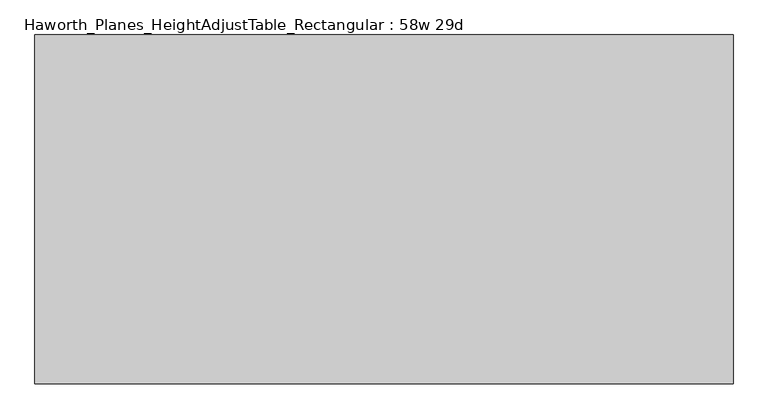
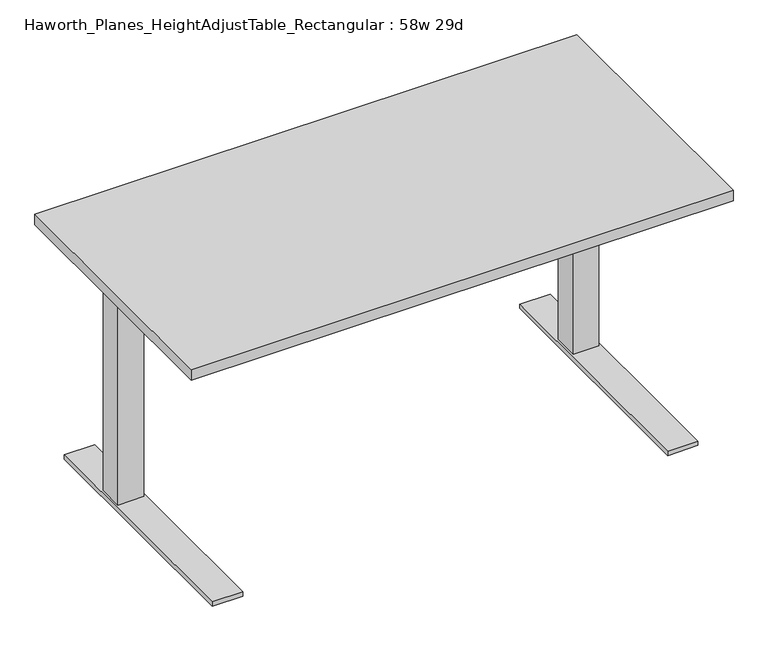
"""IFC4 building model written with IfcOpenShell, lengths in millimetres: furniture geometry, Haworth_Planes_HeightAdjustTable_Rectangular : 58w 29d."""

from ifc_helpers import new_model, si_unit, point, frame, frame_2d, origin, origin_with_axes, place, context, project, spatial, polyline, circle_curve, trimmed, segment, composite_curve, outline, extrude, faceted_brep, source, transform, mapped, element, save


def haworth_planes_heightadjusttable_rectangular_58w_29d_1146ef06(model_context):
    return source(origin(), model_context, "Body", "SolidModel", [
        extrude(outline(polyline([(736.6, 368.3), (736.6, -368.3), (-736.6, -368.3), (-736.6, 368.3), (736.6, 368.3)])), frame((0.0, 0.0, 706.4375), z_axis=(0.0, 0.0, 1.0), x_axis=(1.0, 0.0, 0.0)), (0.0, 0.0, 1.0), 30.1625),
        extrude(outline(composite_curve([segment(trimmed(circle_curve(frame_2d((619.125, 293.6875)), 28.5342152), [point((647.6592152, 293.6875))], [point((590.5907848, 293.6875))], False, "CARTESIAN"), True, "CONTINUOUS"), segment(trimmed(circle_curve(frame_2d((619.125, 293.6875)), 28.5342152), [point((590.5907848, 293.6875))], [point((647.6592152, 293.6875))], False, "CARTESIAN"), True, "CONTINUOUS")], self_intersect=False)), origin_with_axes(), (0.0, 0.0, 1.0), 9.525),
        extrude(outline(composite_curve([segment(trimmed(circle_curve(frame_2d((619.125, -228.6)), 28.6553383), [point((647.7803383, -228.6))], [point((590.4696617, -228.6))], False, "CARTESIAN"), True, "CONTINUOUS"), segment(trimmed(circle_curve(frame_2d((619.125, -228.6)), 28.6553383), [point((590.4696617, -228.6))], [point((647.7803383, -228.6))], False, "CARTESIAN"), True, "CONTINUOUS")], self_intersect=False)), origin_with_axes(), (0.0, 0.0, 1.0), 9.525),
        extrude(outline(polyline([(588.9625, 185.7375), (649.2875, 185.7375), (649.2875, 125.4125), (588.9625, 125.4125), (588.9625, 185.7375)])), frame((0.0, 0.0, 598.4875), z_axis=(0.0, 0.0, 1.0), x_axis=(1.0, 0.0, 0.0)), (0.0, 0.0, 1.0), 107.95),
        faceted_brep([(577.85, 361.95, 9.525), (577.85, -334.9625, 9.525), (577.85, -334.9625, 22.225), (577.85, 361.95, 22.225), (660.4, 361.95, 9.525), (660.4, 361.95, 22.225), (660.4, -334.9625, 22.225), (660.4, -334.9625, 9.525), (584.2, 190.5, 598.4875), (584.2, 120.65, 598.4875), (654.05, 120.65, 598.4875), (654.05, 190.5, 598.4875), (654.05, 190.5, 22.225), (584.2, 190.5, 22.225), (654.05, 120.65, 22.225), (584.2, 120.65, 22.225)], [[[0, 1, 2, 3]], [[4, 5, 6, 7]], [[0, 4, 7, 1]], [[8, 9, 10, 11]], [[11, 12, 13, 8]], [[10, 14, 12, 11]], [[9, 15, 14, 10]], [[8, 13, 15, 9]], [[3, 5, 4, 0]], [[2, 6, 5, 3], [12, 14, 15, 13]], [[1, 7, 6, 2]]]),
        extrude(outline(polyline([(317.5, 706.4375), (317.5, 697.1238172), (175.5257579, 639.7625), (60.8782415, 639.7625), (-241.3, 698.5), (-241.3, 706.4375), (317.5, 706.4375)])), frame((654.05, 0.0, 0.0), z_axis=(1.0, 0.0, 0.0), x_axis=(0.0, 1.0, 0.0)), (0.0, 0.0, 1.0), 3.175),
        extrude(outline(composite_curve([segment(trimmed(circle_curve(frame_2d((-619.125, 293.6875)), 28.5342152), [point((-647.6592152, 293.6875))], [point((-590.5907848, 293.6875))], False, "CARTESIAN"), True, "CONTINUOUS"), segment(trimmed(circle_curve(frame_2d((-619.125, 293.6875)), 28.5342152), [point((-590.5907848, 293.6875))], [point((-647.6592152, 293.6875))], False, "CARTESIAN"), True, "CONTINUOUS")], self_intersect=False)), origin_with_axes(), (0.0, 0.0, 1.0), 9.525),
        extrude(outline(composite_curve([segment(trimmed(circle_curve(frame_2d((-619.125, -228.6)), 28.6553383), [point((-647.7803383, -228.6))], [point((-590.4696617, -228.6))], False, "CARTESIAN"), True, "CONTINUOUS"), segment(trimmed(circle_curve(frame_2d((-619.125, -228.6)), 28.6553383), [point((-590.4696617, -228.6))], [point((-647.7803383, -228.6))], False, "CARTESIAN"), True, "CONTINUOUS")], self_intersect=False)), origin_with_axes(), (0.0, 0.0, 1.0), 9.525),
        extrude(outline(polyline([(-588.9625, 185.7375), (-588.9625, 125.4125), (-649.2875, 125.4125), (-649.2875, 185.7375), (-588.9625, 185.7375)])), frame((0.0, 0.0, 598.4875), z_axis=(0.0, 0.0, 1.0), x_axis=(1.0, 0.0, 0.0)), (0.0, 0.0, 1.0), 107.95),
        faceted_brep([(-577.85, 361.95, 9.525), (-577.85, 361.95, 22.225), (-577.85, -334.9625, 22.225), (-577.85, -334.9625, 9.525), (-660.4, 361.95, 9.525), (-660.4, -334.9625, 9.525), (-660.4, -334.9625, 22.225), (-660.4, 361.95, 22.225), (-584.2, 190.5, 598.4875), (-654.05, 190.5, 598.4875), (-654.05, 120.65, 598.4875), (-584.2, 120.65, 598.4875), (-584.2, 190.5, 22.225), (-654.05, 190.5, 22.225), (-654.05, 120.65, 22.225), (-584.2, 120.65, 22.225)], [[[0, 1, 2, 3]], [[4, 5, 6, 7]], [[0, 3, 5, 4]], [[8, 9, 10, 11]], [[9, 8, 12, 13]], [[10, 9, 13, 14]], [[11, 10, 14, 15]], [[8, 11, 15, 12]], [[1, 0, 4, 7]], [[2, 1, 7, 6], [13, 12, 15, 14]], [[3, 2, 6, 5]]]),
        extrude(outline(polyline([(317.5, 706.4375), (317.5, 697.1238172), (175.5257579, 639.7625), (60.8782415, 639.7625), (-241.3, 698.5), (-241.3, 706.4375), (317.5, 706.4375)])), frame((-657.225, 0.0, 0.0), z_axis=(1.0, 0.0, 0.0), x_axis=(0.0, 1.0, 0.0)), (0.0, 0.0, 1.0), 3.175),
        extrude(outline(polyline([(212.725, 692.15), (212.725, 652.4625), (98.425, 652.4625), (98.425, 692.15), (76.2, 692.15), (76.2, 706.4375), (234.95, 706.4375), (234.95, 692.15), (212.725, 692.15)])), frame((-654.05, 0.0, 0.0), z_axis=(1.0, 0.0, 0.0), x_axis=(0.0, 1.0, 0.0)), (0.0, 0.0, 1.0), 1308.1),
    ])


if __name__ == "__main__":
    model = new_model("IFC4")
    model_context = context("Model", 3, world=origin())
    ifc_project = project(units=[si_unit("LENGTHUNIT", "METRE", prefix="MILLI")], contexts=[model_context])
    site = spatial("IfcSite", under=ifc_project)
    building = spatial("IfcBuilding", under=site)
    placement = place(None, origin())
    haworth_planes_heightadjusttable_rectangular_58w_29d_shape = haworth_planes_heightadjusttable_rectangular_58w_29d_1146ef06(model_context)
    element("IfcFurniture", 1, ObjectType="Haworth_Planes_HeightAdjustTable_Rectangular : 58w 29d", at=placement, inside=building, context=model_context, shape_type="MappedRepresentation", body=[
        mapped(haworth_planes_heightadjusttable_rectangular_58w_29d_shape, transform((0.0, 0.0, 0.0), x_axis=(1.0, 0.0, 0.0), y_axis=(0.0, 1.0, 0.0), z_axis=(0.0, 0.0, 1.0))),
    ])
    save(model, "model.ifc")
